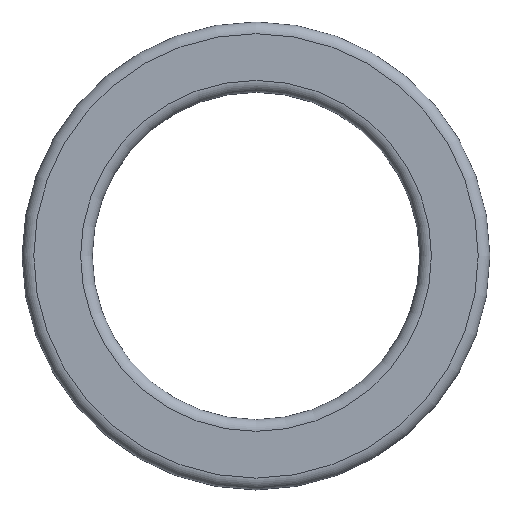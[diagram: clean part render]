
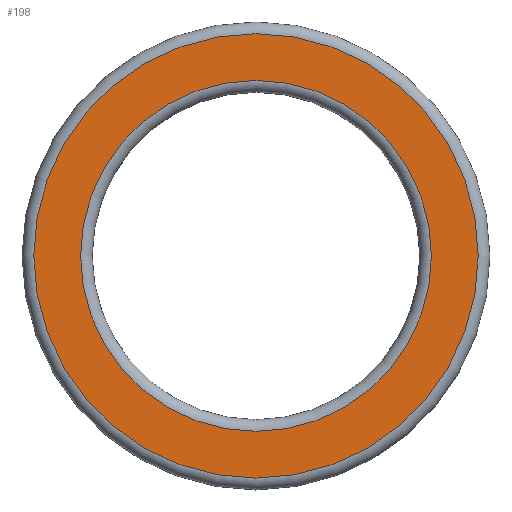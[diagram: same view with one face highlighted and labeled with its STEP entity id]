
A CAD part, top view. The second image highlights one B-rep face of the part: STEP entity #198.
In plain terms, the highlighted planar face has unit normal (0, 0, 1).
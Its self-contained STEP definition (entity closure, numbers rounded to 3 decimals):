
#66 = TOROIDAL_SURFACE('',#67,2.85,0.15);
#67 = AXIS2_PLACEMENT_3D('',#68,#69,#70);
#68 = CARTESIAN_POINT('',(-21.,-16.,26.45));
#69 = DIRECTION('',(0.,0.,1.));
#70 = DIRECTION('',(1.,0.,-0.));
#110 = VERTEX_POINT('',#111);
#111 = CARTESIAN_POINT('',(-18.15,-16.,26.6));
#133 = EDGE_CURVE('',#110,#110,#134,.T.);
#134 = SURFACE_CURVE('',#135,(#140,#147),.PCURVE_S1.);
#135 = CIRCLE('',#136,2.85);
#136 = AXIS2_PLACEMENT_3D('',#137,#138,#139);
#137 = CARTESIAN_POINT('',(-21.,-16.,26.6));
#138 = DIRECTION('',(0.,0.,1.));
#139 = DIRECTION('',(1.,0.,-0.));
#140 = PCURVE('',#66,#141);
#141 = DEFINITIONAL_REPRESENTATION('',(#142),#146);
#142 = LINE('',#143,#144);
#143 = CARTESIAN_POINT('',(0.,1.571));
#144 = VECTOR('',#145,1.);
#145 = DIRECTION('',(1.,0.));
#146 = ( GEOMETRIC_REPRESENTATION_CONTEXT(2) 
PARAMETRIC_REPRESENTATION_CONTEXT() REPRESENTATION_CONTEXT('2D SPACE',''
  ) );
#147 = PCURVE('',#148,#153);
#148 = PLANE('',#149);
#149 = AXIS2_PLACEMENT_3D('',#150,#151,#152);
#150 = CARTESIAN_POINT('',(-21.,-16.,26.6));
#151 = DIRECTION('',(0.,0.,1.));
#152 = DIRECTION('',(1.,0.,-0.));
#153 = DEFINITIONAL_REPRESENTATION('',(#154),#158);
#154 = CIRCLE('',#155,2.85);
#155 = AXIS2_PLACEMENT_2D('',#156,#157);
#156 = CARTESIAN_POINT('',(0.,0.));
#157 = DIRECTION('',(1.,0.));
#158 = ( GEOMETRIC_REPRESENTATION_CONTEXT(2) 
PARAMETRIC_REPRESENTATION_CONTEXT() REPRESENTATION_CONTEXT('2D SPACE',''
  ) );
#198 = ADVANCED_FACE('',(#199,#202),#148,.T.);
#199 = FACE_BOUND('',#200,.T.);
#200 = EDGE_LOOP('',(#201));
#201 = ORIENTED_EDGE('',*,*,#133,.T.);
#202 = FACE_BOUND('',#203,.T.);
#203 = EDGE_LOOP('',(#204));
#204 = ORIENTED_EDGE('',*,*,#205,.T.);
#205 = EDGE_CURVE('',#206,#206,#208,.T.);
#206 = VERTEX_POINT('',#207);
#207 = CARTESIAN_POINT('',(-18.75,-16.,26.6));
#208 = SURFACE_CURVE('',#209,(#214,#225),.PCURVE_S1.);
#209 = CIRCLE('',#210,2.25);
#210 = AXIS2_PLACEMENT_3D('',#211,#212,#213);
#211 = CARTESIAN_POINT('',(-21.,-16.,26.6));
#212 = DIRECTION('',(0.,-0.,-1.));
#213 = DIRECTION('',(1.,0.,-0.));
#214 = PCURVE('',#148,#215);
#215 = DEFINITIONAL_REPRESENTATION('',(#216),#224);
#216 = ( BOUNDED_CURVE() B_SPLINE_CURVE(2,(#217,#218,#219,#220,#221,#222
,#223),.UNSPECIFIED.,.T.,.F.) B_SPLINE_CURVE_WITH_KNOTS((1,2,2,2,2,1),(
    -2.094,0.,2.094,4.189,6.283,
8.378),.UNSPECIFIED.) CURVE() GEOMETRIC_REPRESENTATION_ITEM() 
RATIONAL_B_SPLINE_CURVE((1.,0.5,1.,0.5,1.,0.5,1.)) REPRESENTATION_ITEM(
  '') );
#217 = CARTESIAN_POINT('',(2.25,0.));
#218 = CARTESIAN_POINT('',(2.25,-3.897));
#219 = CARTESIAN_POINT('',(-1.125,-1.949));
#220 = CARTESIAN_POINT('',(-4.5,0.));
#221 = CARTESIAN_POINT('',(-1.125,1.949));
#222 = CARTESIAN_POINT('',(2.25,3.897));
#223 = CARTESIAN_POINT('',(2.25,0.));
#224 = ( GEOMETRIC_REPRESENTATION_CONTEXT(2) 
PARAMETRIC_REPRESENTATION_CONTEXT() REPRESENTATION_CONTEXT('2D SPACE',''
  ) );
#225 = PCURVE('',#226,#231);
#226 = TOROIDAL_SURFACE('',#227,2.25,0.15);
#227 = AXIS2_PLACEMENT_3D('',#228,#229,#230);
#228 = CARTESIAN_POINT('',(-21.,-16.,26.45));
#229 = DIRECTION('',(0.,0.,1.));
#230 = DIRECTION('',(1.,0.,-0.));
#231 = DEFINITIONAL_REPRESENTATION('',(#232),#236);
#232 = LINE('',#233,#234);
#233 = CARTESIAN_POINT('',(-0.,1.571));
#234 = VECTOR('',#235,1.);
#235 = DIRECTION('',(-1.,0.));
#236 = ( GEOMETRIC_REPRESENTATION_CONTEXT(2) 
PARAMETRIC_REPRESENTATION_CONTEXT() REPRESENTATION_CONTEXT('2D SPACE',''
  ) );
